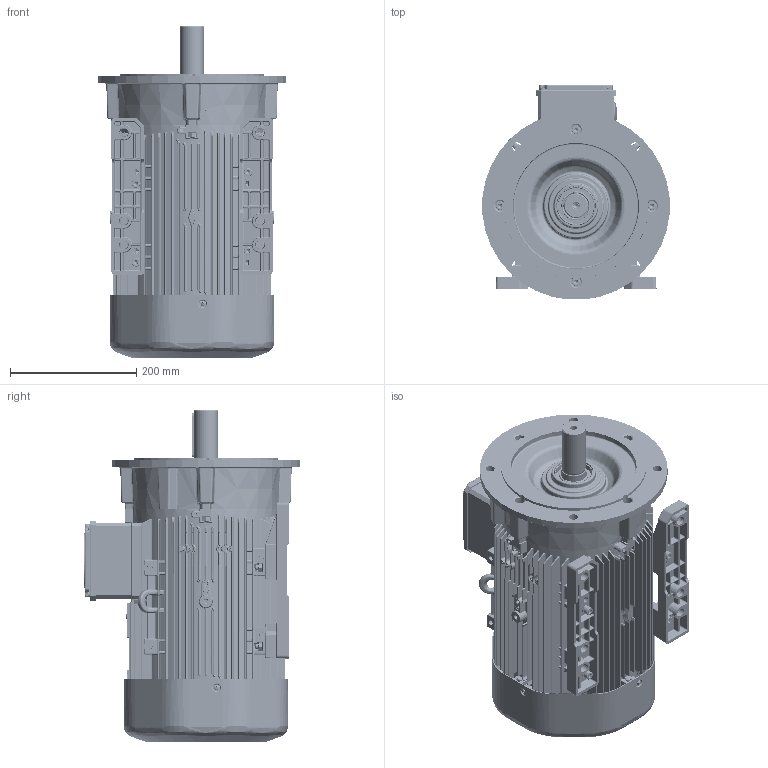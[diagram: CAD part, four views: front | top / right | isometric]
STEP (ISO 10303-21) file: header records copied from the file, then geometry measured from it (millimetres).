
FILE_DESCRIPTION(/* description */ (''),/* implementation_level */ '2;1');
FILE_NAME(/* name */ 'OUTLOOK VIEW QH132 PA B35 FF265 SPL.stp',/* time_stamp */ '2021-09-13T13:14:31+03:00',/* author */ (''),/* organization */ (''),/* preprocessor_version */ 'ST-DEVELOPER v16',/* originating_system */ 'SIEMENS PLM Software NX 11.0',/* authorisation */ '');
FILE_SCHEMA (('AUTOMOTIVE_DESIGN { 1 0 10303 214 3 1 1 1 }'));
Products named in the file (1): 26062CE45B9Cd6eq
Bounding box: 296.87 x 341.14 x 526.5 mm (x, y, z)
Volume: 5091726 mm3; surface area: 1966027.6 mm2
Topology: 83 solids, 85 shells, 14951 faces, 35024 edges, 19421 vertices
Faces by surface type: cylinder 5101, bspline 4010, plane 3062, sphere 1350, torus 836, cone 561, extrusion 31
Full cylindrical faces by diameter (mm): 2.5 x2, 3.5 x2, 4 x4, 4.2 x8, 5.5 x8, 5.6 x1, 6.8 x1, 8 x32, 8.028 x3, 8.477 x2, 8.478 x1, 8.5 x8, 9 x4, 10.5 x1, 13 x12, 14.5 x4, 15 x2, 15.5 x4, 30.4 x2, 34.4 x1, 35 x1, 37.4 x1, 37.5 x1, 38 x1, 39.4 x2, 40 x5, 40.2 x1, 40.5 x1, 42.94 x1, 44 x2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
Entity records: 484397 total; most frequent: CARTESIAN_POINT 168558, ORIENTED_EDGE 66436, DIRECTION 64512, EDGE_CURVE 33218, AXIS2_PLACEMENT_3D 26380, VERTEX_POINT 19195, EDGE_LOOP 16269, ADVANCED_FACE 14950
